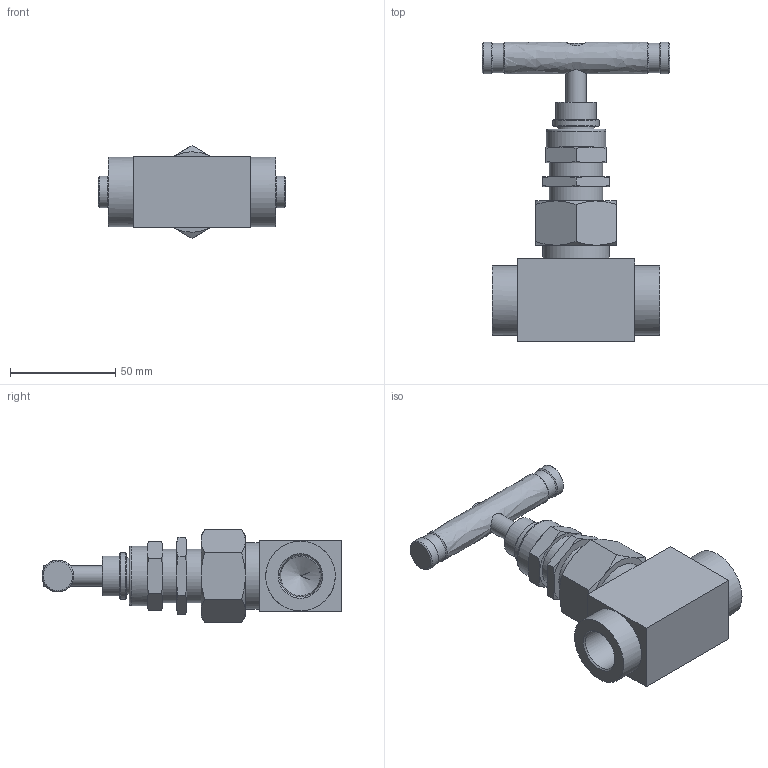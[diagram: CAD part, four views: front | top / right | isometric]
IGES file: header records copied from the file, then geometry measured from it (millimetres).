
Global section: file name: SUNV3-F8N-S316; native system: Autodesk Inventor 2016; preprocessor: unknown; author: 이승민,,11,0; organization: 20161215.103208; date: 20161216.192925; units: millimetre
Bounding box: 89 x 142.23 x 43.99 mm (x, y, z)
Volume: 156225.6 mm3; surface area: 37768.2 mm2
Topology: 3 solids, 3 shells, 129 faces, 329 edges, 222 vertices
Faces by surface type: bspline 129
